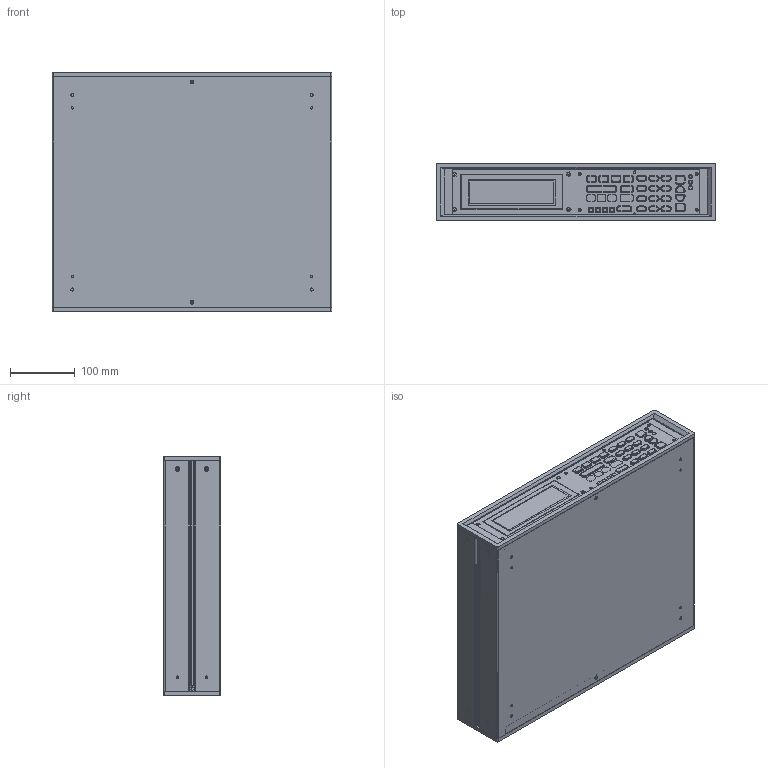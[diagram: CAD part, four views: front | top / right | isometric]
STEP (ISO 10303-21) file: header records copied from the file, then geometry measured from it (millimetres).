
FILE_DESCRIPTION (( 'STEP AP214' ), '1' );
FILE_NAME ('1224-12.STEP', '2021-08-12T17:16:16', ( '' ), ( '' ), 'SwSTEP 2.0', 'SolidWorks 2020', '' );
FILE_SCHEMA (( 'AUTOMOTIVE_DESIGN' ));
Length unit declared in the file: inch
Products named in the file (32): 107-404-DET-01; 107-398_NO_ARTWORK; 107-404; PEM CLS_PEM CLS-440-2; 107-398-DET-02; 250-13-00^107-298; 560-16-00^107-407; 110-219; PEM CLS_PEM CLS-632-1; 107-383-01_NoVents; PEM SOS_PEM SOS-8632-8; POP RIVET 1-8 L-313; 107-467; PEM BSOS_PEM BSOS-632-10; PEM B_PEM BS-440-2; 107-384-01_NoVentsPems; PEM FHS_PEM FHS-832-8; 107-407-DET-01; 107-384-DET-01_NoVents; 107-298_WITH_WINDOW; PEM CLS_PEM CLS-632-2; 107-407; WINDOW^107-298; 1224-12; PEM FHS_PEM FHS-440-8; 107-404-DET-02; PEM SOS_PEM SOSG-8632-10; 107-298-DET-01; 102-152; 107-398-DET-01
Assembly tree (66 placements, depth 4):
  250-13-00^107-298
  560-16-00^107-407
  1224-12
    110-219  x4
    107-298_WITH_WINDOW
      107-298-DET-01
      WINDOW^107-298
    107-467  x2
    102-152
    107-398_NO_ARTWORK
      107-398-DET-01
      107-398-DET-02
    107-384-01_NoVentsPems
      107-384-DET-01_NoVents
    107-383-01_NoVents
    107-404
      107-404-DET-01
        107-404-DET-01
        PEM SOS_PEM SOS-8632-8  x4
        PEM SOS_PEM SOSG-8632-10  x4
        PEM FHS_PEM FHS-832-8
        PEM CLS_PEM CLS-632-2  x4
        PEM FHS_PEM FHS-440-8  x6
        PEM BSOS_PEM BSOS-632-10  x4
        PEM CLS_PEM CLS-440-2  x2
      107-404-DET-02
        107-404-DET-02
        PEM CLS_PEM CLS-632-1  x3
      POP RIVET 1-8 L-313  x6
    107-407
      107-407-DET-01
      PEM CLS_PEM CLS-440-2  x4
      PEM B_PEM BS-440-2
      PEM CLS_PEM CLS-632-2  x4
Bounding box: 430.28 x 88.39 x 367.67 mm (x, y, z)
Volume: 1127222.4 mm3; surface area: 1438145.1 mm2
Topology: 59 solids, 59 shells, 2861 faces, 7135 edges, 4543 vertices
Faces by surface type: plane 1370, cylinder 1142, cone 206, torus 104, bspline 39
Entity records: 70672 total; most frequent: CARTESIAN_POINT 13075, DIRECTION 11313, ORIENTED_EDGE 10690, EDGE_CURVE 5345, AXIS2_PLACEMENT_3D 3964, VERTEX_POINT 3424, LINE 3385, VECTOR 3385
